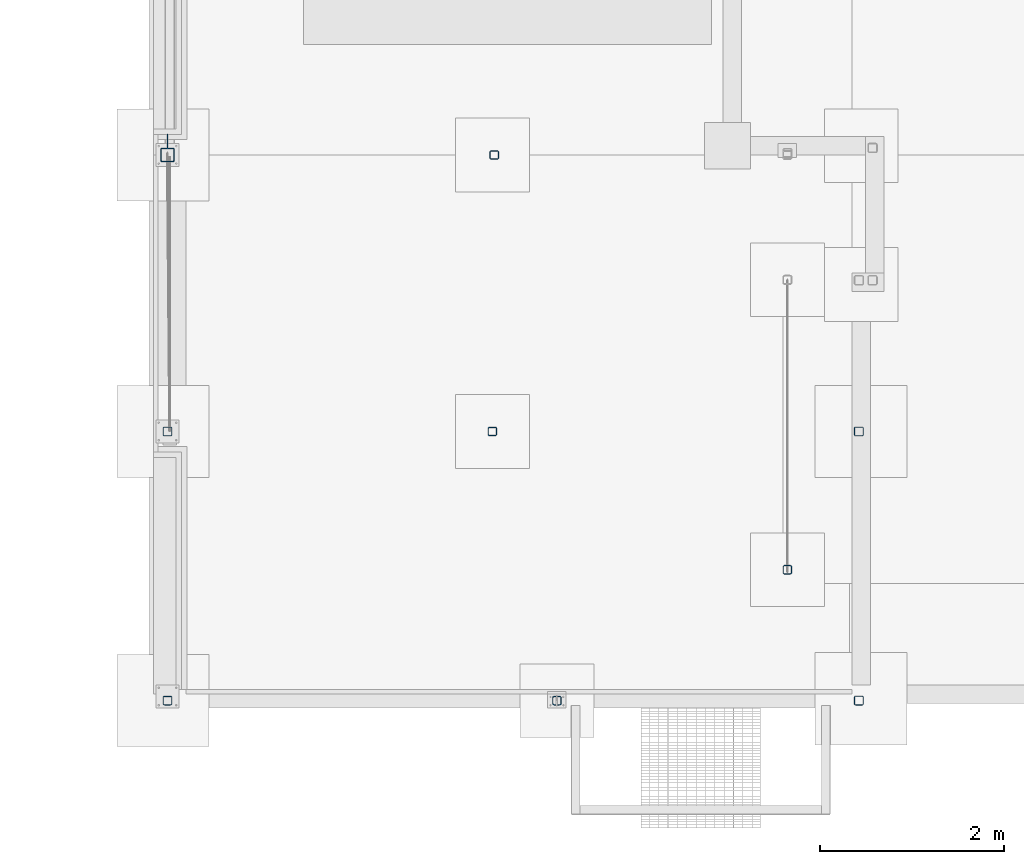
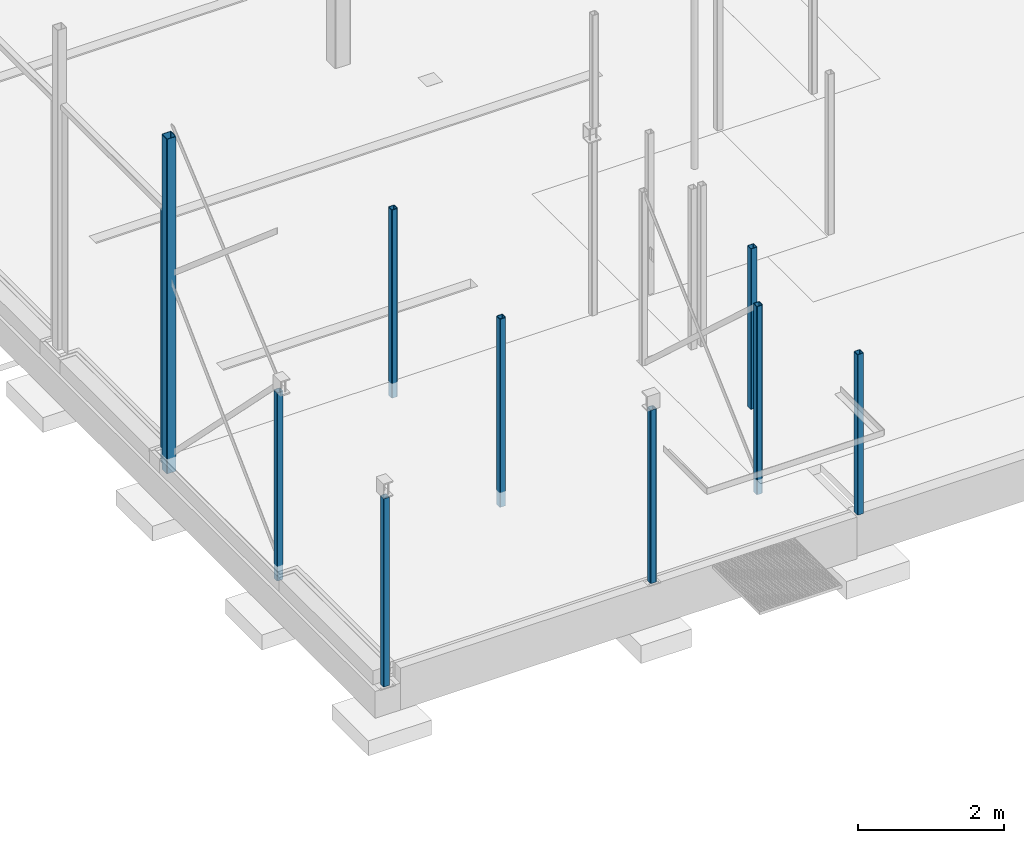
# One storey, part 1 of 18: 9 columns.
"""IFC2X3 building model written with IfcOpenShell, lengths in millimetres."""

import ifcopenshell
import ifcopenshell.guid

model = None  # the IFC model being written
_history = None  # IfcOwnerHistory: only IFC2X3 demands one
_inside = {}  # id of a spatial element -> (the spatial element, [elements in it])
_under = {}  # id of a project, library or spatial element -> (it, [spatial elements below it])
_declared = {}  # id of a project -> (the project, [libraries it declares])
_typed = {}  # id of a type object -> (the type object, [elements of that type])
_made_of = {}  # id of a material, layer set ... -> (it, [elements and type objects made of it])


def new_model(schema):
    """Start an empty IFC model of exactly this schema.

    Asked for "IFC4X3", IfcOpenShell would pick the latest addendum, in which some entities
    have other attributes; the version numbers below select the first issue.
    IFC2X3 requires an IfcOwnerHistory on every rooted entity: one is made here for all.
    """
    global model, _history
    if schema == "IFC4X3":
        model = ifcopenshell.file(schema_version=(4, 3, 0, 0))
    else:
        model = ifcopenshell.file(schema=schema)
    _inside.clear()
    _under.clear()
    _declared.clear()
    _typed.clear()
    _made_of.clear()
    _history = None
    if model.schema == "IFC2X3":
        org = make("IfcOrganization", Name="unknown")
        user = make(
            "IfcPersonAndOrganization",
            ThePerson=make("IfcPerson", FamilyName="unknown"),
            TheOrganization=org,
        )
        app = make(
            "IfcApplication",
            ApplicationDeveloper=org,
            Version="unknown",
            ApplicationFullName="unknown",
            ApplicationIdentifier="unknown",
        )
        _history = make(
            "IfcOwnerHistory",
            OwningUser=user,
            OwningApplication=app,
            ChangeAction="ADDED",
            CreationDate=0,
        )
    return model


def make(cls, **values):
    """One entity of the class cls with the attributes given. An attribute that is None is left unset."""
    return model.create_entity(
        cls, **{name: value for name, value in values.items() if value is not None}
    )


def entity(cls, *values):
    """Any entity or typed value of the class cls, its attributes in the order of the schema. None: left unset."""
    e = model.create_entity(cls)
    for i, value in enumerate(values):
        if value is not None:
            e[i] = value
    return e


def rooted(cls, **values):
    """An entity with a GlobalId (a new one), such as an element, a storey or a relation."""
    return make(cls, GlobalId=ifcopenshell.guid.new(), OwnerHistory=_history, **values)


def si_unit(unit_type, name, prefix=None):
    """IfcSIUnit, for example si_unit("LENGTHUNIT", "METRE", prefix="MILLI")."""
    return make("IfcSIUnit", UnitType=unit_type, Prefix=prefix, Name=name)


def converted_unit(unit_type, name, factor, base, dimensions=None, offset=None):
    """IfcConversionBasedUnit, such as the inch: factor (a typed value) times the base unit."""
    return make(
        "IfcConversionBasedUnit"
        if offset is None
        else "IfcConversionBasedUnitWithOffset",
        ConversionOffset=offset,
        Dimensions=None
        if dimensions is None
        else entity("IfcDimensionalExponents", *dimensions),
        UnitType=unit_type,
        Name=name,
        ConversionFactor=make(
            "IfcMeasureWithUnit", ValueComponent=factor, UnitComponent=base
        ),
    )


def derived_unit(unit_type, elements):
    """IfcDerivedUnit: a product of units, each with its exponent."""
    return make(
        "IfcDerivedUnit",
        Elements=[
            make("IfcDerivedUnitElement", Unit=unit, Exponent=power)
            for unit, power in elements
        ],
        UnitType=unit_type,
    )


def assignment(units):
    """IfcUnitAssignment: the units of a project."""
    return None if units is None else make("IfcUnitAssignment", Units=units)


def point(xyz):
    """IfcCartesianPoint."""
    return None if xyz is None else make("IfcCartesianPoint", Coordinates=xyz)


def direction(xyz):
    """IfcDirection."""
    return None if xyz is None else make("IfcDirection", DirectionRatios=xyz)


def frame(location, z_axis=None, x_axis=None):
    """IfcAxis2Placement3D, a coordinate frame: its origin and axes. An axis left out is left unset."""
    return make(
        "IfcAxis2Placement3D",
        Location=point(location),
        Axis=direction(z_axis),
        RefDirection=direction(x_axis),
    )


def frame_2d(location, x_axis=None):
    """IfcAxis2Placement2D, a coordinate frame in the plane: its origin and x axis."""
    return make(
        "IfcAxis2Placement2D", Location=point(location), RefDirection=direction(x_axis)
    )


def origin():
    """The frame at (0, 0, 0) with its axes left unset."""
    return frame((0.0, 0.0, 0.0))


def origin_2d_with_axis():
    """The frame at (0, 0) in the plane with the x axis (1, 0) written out."""
    return frame_2d((0.0, 0.0), x_axis=(1.0, 0.0))


def place(relative_to, where):
    """IfcLocalPlacement: puts the frame where relative to a parent placement (None: the world)."""
    return make(
        "IfcLocalPlacement", PlacementRelTo=relative_to, RelativePlacement=where
    )


def context(
    kind, dimensions, precision=None, world=None, true_north=None, identifier=None
):
    """IfcGeometricRepresentationContext, for example the 3D "Model" context."""
    return make(
        "IfcGeometricRepresentationContext",
        ContextIdentifier=identifier,
        ContextType=kind,
        CoordinateSpaceDimension=dimensions,
        Precision=precision,
        WorldCoordinateSystem=world,
        TrueNorth=true_north,
    )


def subcontext(parent, identifier, kind, view, scale=None):
    """IfcGeometricRepresentationSubContext, for example "Body" below "Model"."""
    return make(
        "IfcGeometricRepresentationSubContext",
        ContextIdentifier=identifier,
        ContextType=kind,
        ParentContext=parent,
        TargetScale=scale,
        TargetView=view,
    )


def project(units=None, contexts=None):
    """IfcProject with its units and contexts."""
    return rooted(
        "IfcProject",
        Name="project",
        RepresentationContexts=contexts,
        UnitsInContext=assignment(units),
    )


def spatial(cls, under=None, at=None, **own):
    """A site, building, storey or space (cls), placed at a placement, below another one or the project."""
    s = rooted(cls, ObjectPlacement=at, **own)
    if under is not None:
        _under.setdefault(under.id(), (under, []))[1].append(s)
    return s


def polyline(points):
    """IfcPolyline through the points."""
    return make("IfcPolyline", Points=[point(p) for p in points])


def circle_curve(where, radius):
    """IfcCircle in the frame where."""
    return make("IfcCircle", Position=where, Radius=radius)


def parameter(value):
    """IfcParameterValue: where a trimmed curve begins or ends, as a parameter of its basis curve."""
    return model.create_entity("IfcParameterValue", value)


def trimmed(basis, trim1, trim2, sense, master):
    """IfcTrimmedCurve: the piece of a basis curve between two trims."""
    return make(
        "IfcTrimmedCurve",
        BasisCurve=basis,
        Trim1=trim1,
        Trim2=trim2,
        SenseAgreement=sense,
        MasterRepresentation=master,
    )


def segment(curve, same_sense, transition):
    """IfcCompositeCurveSegment."""
    return make(
        "IfcCompositeCurveSegment",
        Transition=transition,
        SameSense=same_sense,
        ParentCurve=curve,
    )


def composite_curve(segments, self_intersect=None):
    """IfcCompositeCurve: segments joined end to end."""
    return make("IfcCompositeCurve", Segments=segments, SelfIntersect=self_intersect)


def profile(cls, at=None, kind="AREA", **sizes):
    """A parametric profile (cls). Its sizes go by their IFC names, for example OverallWidth=200.0."""
    return make(cls, ProfileType=kind, Position=at, **sizes)


def rectangle(**sizes):
    """IfcRectangleProfileDef."""
    return profile("IfcRectangleProfileDef", **sizes)


def outline(outer, holes=None, kind="AREA"):
    """IfcArbitraryClosedProfileDef: a profile drawn as a closed curve; with holes, ...WithVoids."""
    if holes is None:
        return make("IfcArbitraryClosedProfileDef", ProfileType=kind, OuterCurve=outer)
    return make(
        "IfcArbitraryProfileDefWithVoids",
        ProfileType=kind,
        OuterCurve=outer,
        InnerCurves=holes,
    )


def extrude(swept, where, along, depth):
    """IfcExtrudedAreaSolid: the profile swept, set in the frame where, extruded along a direction by depth."""
    return make(
        "IfcExtrudedAreaSolid",
        SweptArea=swept,
        Position=where,
        ExtrudedDirection=direction(along),
        Depth=depth,
    )


def shape(context_of_items, identifier, shape_type, items):
    """IfcShapeRepresentation: the items that make up one representation, for example the "Body"."""
    return make(
        "IfcShapeRepresentation",
        ContextOfItems=context_of_items,
        RepresentationIdentifier=identifier,
        RepresentationType=shape_type,
        Items=items,
    )


def source(mapping_origin, context_of_items, identifier, shape_type, items):
    """IfcRepresentationMap: a shape defined once, which mapped items show again and again."""
    return make(
        "IfcRepresentationMap",
        MappingOrigin=mapping_origin,
        MappedRepresentation=shape(context_of_items, identifier, shape_type, items),
    )


def transform(
    local_origin,
    x_axis=None,
    y_axis=None,
    z_axis=None,
    scale=None,
    scale2=None,
    scale3=None,
    uniform=True,
):
    """IfcCartesianTransformationOperator3D, or its non-uniform kind. x_axis, y_axis, z_axis: its Axis1, 2, 3."""
    if uniform:
        return make(
            "IfcCartesianTransformationOperator3D",
            Axis1=direction(x_axis),
            Axis2=direction(y_axis),
            LocalOrigin=point(local_origin),
            Scale=scale,
            Axis3=direction(z_axis),
        )
    return make(
        "IfcCartesianTransformationOperator3DnonUniform",
        Axis1=direction(x_axis),
        Axis2=direction(y_axis),
        LocalOrigin=point(local_origin),
        Scale=scale,
        Axis3=direction(z_axis),
        Scale2=scale2,
        Scale3=scale3,
    )


def mapped(mapping_source, mapping_target):
    """IfcMappedItem: shows the shape of a source again, moved by a transform."""
    return make(
        "IfcMappedItem", MappingSource=mapping_source, MappingTarget=mapping_target
    )


def material(Name=None, Category=None):
    """IfcMaterial."""
    return make("IfcMaterial", Name=Name, Category=Category)


def made_of(thing, what):
    """Note that an element or type object is made of a material, layer set ...; save() writes the relation."""
    if what is not None:
        _made_of.setdefault(what.id(), (what, []))[1].append(thing)
    return thing


def type_object(cls, material=None, **own):
    """A type object (cls), such as IfcWallType, which elements share."""
    return made_of(rooted(cls, **own), material)


def type_shapes(of_type, sources):
    """Give a type object the sources (RepresentationMaps) that its elements show as mapped items."""
    of_type.RepresentationMaps = sources


def element(
    cls,
    number,
    at=None,
    inside=None,
    cuts=None,
    type_object=None,
    material=None,
    context=None,
    identifier="Body",
    shape_type=None,
    held_by="IfcProductDefinitionShape",
    body=None,
    shapes=None,
    **own,
):
    """One element of the class cls, such as IfcWall. Its Tag is "e" and its number.

    at: its placement. inside: the storey or other place that contains it. cuts: it is an
    opening in that element (IfcRelVoidsElement). A single representation is given by context,
    identifier, shape_type and body (its items); several are given by shapes. held_by: the class
    of the entity that holds the representations. save() writes the other relations.
    """
    e = rooted(cls, Tag="e%d" % number, ObjectPlacement=at, **own)
    if body is not None:
        shapes = [shape(context, identifier, shape_type, body)]
    if shapes is not None:
        e.Representation = make(held_by, Representations=shapes)
    if inside is not None:
        _inside.setdefault(inside.id(), (inside, []))[1].append(e)
    if cuts is not None:
        rooted(
            "IfcRelVoidsElement", RelatingBuildingElement=cuts, RelatedOpeningElement=e
        )
    if type_object is not None:
        _typed.setdefault(type_object.id(), (type_object, []))[1].append(e)
    return made_of(e, material)


def aggregate(whole, parts):
    """IfcRelAggregates: a whole, such as a stair, and the parts it consists of."""
    return rooted("IfcRelAggregates", RelatingObject=whole, RelatedObjects=parts)


def save(model, path):
    """Write the relations noted so far, then the file.

    IfcRelAggregates (storeys below a building ...), IfcRelContainedInSpatialStructure (elements
    in a storey), IfcRelDefinesByType, IfcRelAssociatesMaterial and IfcRelDeclares: one each for
    every whole, place, type object, material and project.
    """
    for whole, parts in _under.values():
        aggregate(whole, parts)
    for where, things in _inside.values():
        rooted(
            "IfcRelContainedInSpatialStructure",
            RelatedElements=things,
            RelatingStructure=where,
        )
    for kind, things in _typed.values():
        rooted("IfcRelDefinesByType", RelatedObjects=things, RelatingType=kind)
    for what, things in _made_of.values():
        rooted("IfcRelAssociatesMaterial", RelatedObjects=things, RelatingMaterial=what)
    for by, libraries in _declared.values():
        rooted("IfcRelDeclares", RelatingContext=by, RelatedDefinitions=libraries)
    model.write(path)


model = new_model("IFC2X3")

# Units and contexts
model_context = context("Model", 3, precision=0.01, world=origin(), true_north=direction((6.12303176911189e-17, 1.0)))
body_context = subcontext(model_context, "Body", "Model", "MODEL_VIEW")
ifc_project = project(units=[si_unit("LENGTHUNIT", "METRE", prefix="MILLI"), si_unit("AREAUNIT", "SQUARE_METRE"), si_unit("VOLUMEUNIT", "CUBIC_METRE"), converted_unit("PLANEANGLEUNIT", "DEGREE", entity("IfcRatioMeasure", 0.0174532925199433), si_unit("PLANEANGLEUNIT", "RADIAN"), dimensions=[0, 0, 0, 0, 0, 0, 0]), si_unit("MASSUNIT", "GRAM", prefix="KILO"), derived_unit("MASSDENSITYUNIT", [(si_unit("MASSUNIT", "GRAM", prefix="KILO"), 1), (si_unit("LENGTHUNIT", "METRE"), -3)]), si_unit("TIMEUNIT", "SECOND"), si_unit("FREQUENCYUNIT", "HERTZ"), si_unit("THERMODYNAMICTEMPERATUREUNIT", "DEGREE_CELSIUS"), derived_unit("THERMALTRANSMITTANCEUNIT", [(si_unit("MASSUNIT", "GRAM", prefix="KILO"), 1), (si_unit("THERMODYNAMICTEMPERATUREUNIT", "KELVIN"), -1), (si_unit("TIMEUNIT", "SECOND"), -3)]), derived_unit("VOLUMETRICFLOWRATEUNIT", [(si_unit("LENGTHUNIT", "METRE"), 3), (si_unit("TIMEUNIT", "SECOND"), -1)]), si_unit("ELECTRICCURRENTUNIT", "AMPERE"), si_unit("ELECTRICVOLTAGEUNIT", "VOLT"), si_unit("POWERUNIT", "WATT"), si_unit("FORCEUNIT", "NEWTON", prefix="KILO"), si_unit("ILLUMINANCEUNIT", "LUX"), si_unit("LUMINOUSFLUXUNIT", "LUMEN"), si_unit("LUMINOUSINTENSITYUNIT", "CANDELA"), derived_unit("USERDEFINED", [(si_unit("MASSUNIT", "GRAM", prefix="KILO"), -1), (si_unit("LENGTHUNIT", "METRE"), -2), (si_unit("TIMEUNIT", "SECOND"), 3), (si_unit("LUMINOUSFLUXUNIT", "LUMEN"), 1)]), derived_unit("LINEARVELOCITYUNIT", [(si_unit("LENGTHUNIT", "METRE"), 1), (si_unit("TIMEUNIT", "SECOND"), -1)]), si_unit("PRESSUREUNIT", "PASCAL"), derived_unit("USERDEFINED", [(si_unit("LENGTHUNIT", "METRE"), -2), (si_unit("MASSUNIT", "GRAM", prefix="KILO"), 1), (si_unit("TIMEUNIT", "SECOND"), -2)])], contexts=[model_context])

# Site, building, storey
site_placement = place(None, frame((0.0, 0.0, 101000.0)))
site = spatial("IfcSite", under=ifc_project, at=site_placement, Name="Default", CompositionType="ELEMENT")
building_placement = place(site_placement, origin())
building = spatial("IfcBuilding", under=site, at=building_placement, CompositionType="ELEMENT")
storey_placement = place(building_placement, origin())
storey = spatial("IfcBuildingStorey", under=building, at=storey_placement, Name="01", CompositionType="ELEMENT", Elevation=8.9295595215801e-10)

# Columns
ifc_material = material(Name="S355")
column_type_1 = type_object("IfcColumnType", Name="HUP 100x100x6.3", PredefinedType="COLUMN", material=ifc_material)
shared_shape_1 = source(origin(), body_context, "Body", "SweptSolid", [
    extrude(outline(composite_curve([segment(polyline([(-37.4000000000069, -50.0), (37.3999999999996, -50.0)]), True, "CONTINUOUS"), segment(trimmed(circle_curve(frame_2d((37.3999999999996, -37.3999999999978), x_axis=(-1.0, 0.0)), 12.6000000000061), [parameter(90.0000000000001)], [parameter(180.0)], True, "PARAMETER"), True, "CONTINUOUS"), segment(polyline([(50.0, -37.4000000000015), (50.0, 37.3999999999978)]), True, "CONTINUOUS"), segment(trimmed(circle_curve(frame_2d((37.4000000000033, 37.3999999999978), x_axis=(-1.0, 0.0)), 12.6000000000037), [parameter(180.0)], [parameter(270.0)], True, "PARAMETER"), True, "CONTINUOUS"), segment(polyline([(37.4000000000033, 50.0), (-37.4000000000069, 50.0)]), True, "CONTINUOUS"), segment(trimmed(circle_curve(frame_2d((-37.4000000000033, 37.4000000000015), x_axis=(-1.0, 0.0)), 12.6000000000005), [parameter(270.0)], [parameter(360.0)], True, "PARAMETER"), True, "CONTINUOUS"), segment(polyline([(-50.0, 37.3999999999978), (-50.0, -37.4000000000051)]), True, "CONTINUOUS"), segment(trimmed(circle_curve(frame_2d((-37.4000000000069, -37.4000000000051), x_axis=(-1.0, 0.0)), 12.5999999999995), [parameter(360.0)], [parameter(89.9999999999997)], True, "PARAMETER"), True, "CONTINUOUS")], self_intersect=False), holes=[composite_curve([segment(trimmed(circle_curve(frame_2d((-37.4000000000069, -37.4000000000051), x_axis=(-1.0, 0.0)), 6.2999999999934), [parameter(0.0)], [parameter(90.0)], True, "PARAMETER"), False, "CONTINUOUS"), segment(polyline([(-43.7000000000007, -37.4000000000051), (-43.7000000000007, 37.4000000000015)]), True, "CONTINUOUS"), segment(trimmed(circle_curve(frame_2d((-37.4000000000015, 37.4000000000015), x_axis=(-1.0, 0.0)), 6.29999999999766), [parameter(270.0)], [parameter(360.0)], True, "PARAMETER"), False, "CONTINUOUS"), segment(polyline([(-37.4000000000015, 43.6999999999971), (37.3999999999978, 43.6999999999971)]), True, "CONTINUOUS"), segment(trimmed(circle_curve(frame_2d((37.3999999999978, 37.3999999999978), x_axis=(-1.0, 0.0)), 6.30000000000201), [parameter(180.0)], [parameter(270.0)], True, "PARAMETER"), False, "CONTINUOUS"), segment(polyline([(43.7000000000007, 37.3999999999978), (43.7000000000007, -37.4000000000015)]), True, "CONTINUOUS"), segment(trimmed(circle_curve(frame_2d((37.3999999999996, -37.3999999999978), x_axis=(-1.0, 0.0)), 6.30000000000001), [parameter(90.0000000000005)], [parameter(180.0)], True, "PARAMETER"), False, "CONTINUOUS"), segment(polyline([(37.3999999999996, -43.7000000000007), (-37.4000000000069, -43.7000000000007)]), True, "CONTINUOUS")], self_intersect=False)]), frame((11261.2644969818, 23497.9507529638, 0.0), z_axis=(0.0, 0.0, 1.0), x_axis=(-1.0, 0.0, 0.0)), (0.0, 0.0, 1.0), 2684.99999999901),
])
type_shapes(column_type_1, [shared_shape_1])
column_1_placement = place(storey_placement, origin())
element("IfcColumn", 1, at=column_1_placement, inside=storey, type_object=column_type_1, material=ifc_material, Name="Søyle HUP:HUP 100x100x6.3", ObjectType="HUP 100x100x6.3", context=body_context, shape_type="MappedRepresentation", body=[
    mapped(shared_shape_1, transform((0.0, 0.0, 0.0), scale=1.0)),
])
column_type_2 = type_object("IfcColumnType", Name="HUP 100x100x6.3", PredefinedType="COLUMN", material=ifc_material)
shared_shape_2 = source(origin(), body_context, "Body", "SweptSolid", [
    extrude(outline(composite_curve([segment(polyline([(-37.4000000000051, -50.0), (37.4000000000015, -50.0)]), True, "CONTINUOUS"), segment(trimmed(circle_curve(frame_2d((37.4000000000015, -37.3999999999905), x_axis=(-1.0, 0.0)), 12.6000000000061), [parameter(90.0000000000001)], [parameter(180.0)], True, "PARAMETER"), True, "CONTINUOUS"), segment(polyline([(50.0, -37.3999999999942), (50.0, 37.4000000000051)]), True, "CONTINUOUS"), segment(trimmed(circle_curve(frame_2d((37.4000000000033, 37.4000000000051), x_axis=(-1.0, 0.0)), 12.6000000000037), [parameter(180.0)], [parameter(270.0)], True, "PARAMETER"), True, "CONTINUOUS"), segment(polyline([(37.4000000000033, 50.0), (-37.4000000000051, 50.0)]), True, "CONTINUOUS"), segment(trimmed(circle_curve(frame_2d((-37.4000000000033, 37.4000000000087), x_axis=(-1.0, 0.0)), 12.6000000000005), [parameter(270.0)], [parameter(360.0)], True, "PARAMETER"), True, "CONTINUOUS"), segment(polyline([(-50.0, 37.4000000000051), (-50.0, -37.3999999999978)]), True, "CONTINUOUS"), segment(trimmed(circle_curve(frame_2d((-37.4000000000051, -37.3999999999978), x_axis=(-1.0, 0.0)), 12.5999999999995), [parameter(360.0)], [parameter(89.9999999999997)], True, "PARAMETER"), True, "CONTINUOUS")], self_intersect=False), holes=[composite_curve([segment(trimmed(circle_curve(frame_2d((-37.4000000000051, -37.3999999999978), x_axis=(-1.0, 0.0)), 6.2999999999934), [parameter(0.0)], [parameter(90.0)], True, "PARAMETER"), False, "CONTINUOUS"), segment(polyline([(-43.7000000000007, -37.3999999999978), (-43.7000000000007, 37.4000000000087)]), True, "CONTINUOUS"), segment(trimmed(circle_curve(frame_2d((-37.4000000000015, 37.4000000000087), x_axis=(-1.0, 0.0)), 6.29999999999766), [parameter(270.0)], [parameter(360.0)], True, "PARAMETER"), False, "CONTINUOUS"), segment(polyline([(-37.4000000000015, 43.7000000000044), (37.3999999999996, 43.7000000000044)]), True, "CONTINUOUS"), segment(trimmed(circle_curve(frame_2d((37.3999999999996, 37.4000000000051), x_axis=(-1.0, 0.0)), 6.30000000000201), [parameter(180.0)], [parameter(270.0)], True, "PARAMETER"), False, "CONTINUOUS"), segment(polyline([(43.7000000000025, 37.4000000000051), (43.7000000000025, -37.3999999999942)]), True, "CONTINUOUS"), segment(trimmed(circle_curve(frame_2d((37.4000000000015, -37.3999999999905), x_axis=(-1.0, 0.0)), 6.30000000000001), [parameter(90.0000000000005)], [parameter(180.0)], True, "PARAMETER"), False, "CONTINUOUS"), segment(polyline([(37.4000000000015, -43.6999999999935), (-37.4000000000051, -43.6999999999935)]), True, "CONTINUOUS")], self_intersect=False)]), frame((11261.2644969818, 26417.9507529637, 0.0), z_axis=(0.0, 0.0, 1.0), x_axis=(-1.0, 0.0, 0.0)), (0.0, 0.0, 1.0), 2684.99999999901),
])
type_shapes(column_type_2, [shared_shape_2])
column_2_placement = place(storey_placement, origin())
element("IfcColumn", 2, at=column_2_placement, inside=storey, type_object=column_type_2, material=ifc_material, Name="Søyle HUP:HUP 100x100x6.3", ObjectType="HUP 100x100x6.3", context=body_context, shape_type="MappedRepresentation", body=[
    mapped(shared_shape_2, transform((0.0, 0.0, 0.0), scale=1.0)),
])
column_type_3 = type_object("IfcColumnType", Name="HUP 100x100x10", PredefinedType="COLUMN", material=ifc_material)
shared_shape_3 = source(origin(), body_context, "Body", "SweptSolid", [
    extrude(outline(composite_curve([segment(polyline([(-30.0, -50.0), (30.0, -50.0)]), True, "CONTINUOUS"), segment(trimmed(circle_curve(frame_2d((30.0, -30.0), x_axis=(-1.0, 0.0)), 20.0000000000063), [parameter(90.0000000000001)], [parameter(180.0)], True, "PARAMETER"), True, "CONTINUOUS"), segment(polyline([(50.0, -30.0), (50.0, 30.0)]), True, "CONTINUOUS"), segment(trimmed(circle_curve(frame_2d((30.0, 30.0), x_axis=(-1.0, 0.0)), 20.0000000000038), [parameter(180.0)], [parameter(270.0)], True, "PARAMETER"), True, "CONTINUOUS"), segment(polyline([(30.0, 50.0), (-30.0, 50.0)]), True, "CONTINUOUS"), segment(trimmed(circle_curve(frame_2d((-30.0, 30.0), x_axis=(-1.0, 0.0)), 20.0000000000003), [parameter(270.0)], [parameter(360.0)], True, "PARAMETER"), True, "CONTINUOUS"), segment(polyline([(-50.0, 30.0), (-50.0, -30.0)]), True, "CONTINUOUS"), segment(trimmed(circle_curve(frame_2d((-30.0, -30.0), x_axis=(-1.0, 0.0)), 19.9999999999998), [parameter(360.0)], [parameter(89.9999999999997)], True, "PARAMETER"), True, "CONTINUOUS")], self_intersect=False), holes=[composite_curve([segment(trimmed(circle_curve(frame_2d((-30.0, -30.0), x_axis=(-1.0, 0.0)), 9.99999999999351), [parameter(0.0)], [parameter(90.0)], True, "PARAMETER"), False, "CONTINUOUS"), segment(polyline([(-40.0, -30.0), (-40.0, 30.0)]), True, "CONTINUOUS"), segment(trimmed(circle_curve(frame_2d((-30.0, 30.0), x_axis=(-1.0, 0.0)), 9.99999999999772), [parameter(270.0)], [parameter(0.0)], True, "PARAMETER"), False, "CONTINUOUS"), segment(polyline([(-30.0, 40.0), (30.0, 40.0)]), True, "CONTINUOUS"), segment(trimmed(circle_curve(frame_2d((30.0, 30.0), x_axis=(-1.0, 0.0)), 10.000000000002), [parameter(180.0)], [parameter(270.0)], True, "PARAMETER"), False, "CONTINUOUS"), segment(polyline([(40.0, 30.0), (40.0, -30.0)]), True, "CONTINUOUS"), segment(trimmed(circle_curve(frame_2d((30.0, -30.0), x_axis=(-1.0, 0.0)), 10.0), [parameter(90.0000000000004)], [parameter(180.0)], True, "PARAMETER"), False, "CONTINUOUS"), segment(polyline([(30.0, -40.0), (-30.0, -40.0)]), True, "CONTINUOUS")], self_intersect=False)]), frame((10486.2644969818, 24917.9507529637, -250.0), z_axis=(0.0, 0.0, 1.0), x_axis=(-1.0, 0.0, 0.0)), (0.0, 0.0, 1.0), 3149.99999999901),
])
type_shapes(column_type_3, [shared_shape_3])
column_3_placement = place(storey_placement, origin())
element("IfcColumn", 3, at=column_3_placement, inside=storey, type_object=column_type_3, material=ifc_material, Name="Søyle HUP:HUP 100x100x10", ObjectType="HUP 100x100x10", context=body_context, shape_type="MappedRepresentation", body=[
    mapped(shared_shape_3, transform((0.0, 0.0, 0.0), scale=1.0)),
])
column_type_4 = type_object("IfcColumnType", Name="HUP 100x100x10", PredefinedType="COLUMN", material=ifc_material)
shared_shape_4 = source(origin(), body_context, "Body", "SweptSolid", [
    extrude(outline(composite_curve([segment(polyline([(-30.0, -50.0), (30.0, -50.0)]), True, "CONTINUOUS"), segment(trimmed(circle_curve(frame_2d((30.0, -30.0), x_axis=(-1.0, 0.0)), 20.0000000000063), [parameter(90.0000000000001)], [parameter(180.0)], True, "PARAMETER"), True, "CONTINUOUS"), segment(polyline([(50.0, -30.0), (50.0, 30.0)]), True, "CONTINUOUS"), segment(trimmed(circle_curve(frame_2d((30.0, 30.0), x_axis=(-1.0, 0.0)), 20.0000000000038), [parameter(180.0)], [parameter(270.0)], True, "PARAMETER"), True, "CONTINUOUS"), segment(polyline([(30.0, 50.0), (-30.0, 50.0)]), True, "CONTINUOUS"), segment(trimmed(circle_curve(frame_2d((-30.0, 30.0), x_axis=(-1.0, 0.0)), 20.0000000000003), [parameter(270.0)], [parameter(360.0)], True, "PARAMETER"), True, "CONTINUOUS"), segment(polyline([(-50.0, 30.0), (-50.0, -30.0)]), True, "CONTINUOUS"), segment(trimmed(circle_curve(frame_2d((-30.0, -30.0), x_axis=(-1.0, 0.0)), 19.9999999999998), [parameter(360.0)], [parameter(89.9999999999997)], True, "PARAMETER"), True, "CONTINUOUS")], self_intersect=False), holes=[composite_curve([segment(trimmed(circle_curve(frame_2d((-30.0, -30.0), x_axis=(-1.0, 0.0)), 9.99999999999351), [parameter(0.0)], [parameter(90.0)], True, "PARAMETER"), False, "CONTINUOUS"), segment(polyline([(-40.0, -30.0), (-40.0, 30.0)]), True, "CONTINUOUS"), segment(trimmed(circle_curve(frame_2d((-30.0, 30.0), x_axis=(-1.0, 0.0)), 9.99999999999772), [parameter(270.0)], [parameter(0.0)], True, "PARAMETER"), False, "CONTINUOUS"), segment(polyline([(-30.0, 40.0), (30.0, 40.0)]), True, "CONTINUOUS"), segment(trimmed(circle_curve(frame_2d((30.0, 30.0), x_axis=(-1.0, 0.0)), 10.000000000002), [parameter(180.0)], [parameter(270.0)], True, "PARAMETER"), False, "CONTINUOUS"), segment(polyline([(40.0, 30.0), (40.0, -30.0)]), True, "CONTINUOUS"), segment(trimmed(circle_curve(frame_2d((30.0, -30.0), x_axis=(-1.0, 0.0)), 10.0), [parameter(90.0000000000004)], [parameter(180.0)], True, "PARAMETER"), False, "CONTINUOUS"), segment(polyline([(30.0, -40.0), (-30.0, -40.0)]), True, "CONTINUOUS")], self_intersect=False)]), frame((0.0, 0.0, 0.0), z_axis=(0.0, 0.0, 1.0), x_axis=(-1.0, 0.0, 0.0)), (0.0, 0.0, 1.0), 2899.99999999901),
])
type_shapes(column_type_4, [shared_shape_4])
column_4_placement = place(storey_placement, frame((7986.26449698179, 23497.9507529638, 0.0)))
element("IfcColumn", 4, at=column_4_placement, inside=storey, type_object=column_type_4, material=ifc_material, Name="Søyle HUP:HUP 100x100x10", ObjectType="HUP 100x100x10", context=body_context, shape_type="MappedRepresentation", body=[
    mapped(shared_shape_4, transform((0.0, 0.0, 0.0), scale=1.0)),
])
column_type_5 = type_object("IfcColumnType", Name="HUP 100x100x8", PredefinedType="COLUMN", material=ifc_material)
shared_shape_5 = source(origin(), body_context, "Body", "SweptSolid", [
    extrude(outline(composite_curve([segment(polyline([(-34.0, -50.0), (34.0, -50.0)]), True, "CONTINUOUS"), segment(trimmed(circle_curve(frame_2d((34.0, -34.0), x_axis=(-1.0, 0.0)), 15.9999999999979), [parameter(90.0000000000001)], [parameter(180.0)], True, "PARAMETER"), True, "CONTINUOUS"), segment(polyline([(50.0, -34.0), (50.0, 34.0)]), True, "CONTINUOUS"), segment(trimmed(circle_curve(frame_2d((34.0, 34.0), x_axis=(-1.0, 0.0)), 16.0000000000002), [parameter(180.0)], [parameter(270.0)], True, "PARAMETER"), True, "CONTINUOUS"), segment(polyline([(34.0, 50.0), (-34.0, 50.0)]), True, "CONTINUOUS"), segment(trimmed(circle_curve(frame_2d((-34.0, 34.0), x_axis=(-1.0, 0.0)), 16.0000000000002), [parameter(270.0)], [parameter(360.0)], True, "PARAMETER"), True, "CONTINUOUS"), segment(polyline([(-50.0, 34.0), (-50.0, -34.0)]), True, "CONTINUOUS"), segment(trimmed(circle_curve(frame_2d((-34.0, -34.0), x_axis=(-1.0, 0.0)), 15.9999999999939), [parameter(360.0)], [parameter(89.9999999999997)], True, "PARAMETER"), True, "CONTINUOUS")], self_intersect=False), holes=[composite_curve([segment(trimmed(circle_curve(frame_2d((-34.0, -34.0), x_axis=(-1.0, 0.0)), 7.99999999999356), [parameter(0.0)], [parameter(90.0)], True, "PARAMETER"), False, "CONTINUOUS"), segment(polyline([(-42.0, -34.0), (-42.0, 34.0)]), True, "CONTINUOUS"), segment(trimmed(circle_curve(frame_2d((-34.0, 34.0), x_axis=(-1.0, 0.0)), 7.99999999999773), [parameter(270.0)], [parameter(5.08888749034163e-14)], True, "PARAMETER"), False, "CONTINUOUS"), segment(polyline([(-34.0, 42.0), (34.0, 42.0)]), True, "CONTINUOUS"), segment(trimmed(circle_curve(frame_2d((34.0, 34.0), x_axis=(-1.0, 0.0)), 8.00000000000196), [parameter(180.0)], [parameter(270.0)], True, "PARAMETER"), False, "CONTINUOUS"), segment(polyline([(42.0, 34.0), (42.0, -34.0)]), True, "CONTINUOUS"), segment(trimmed(circle_curve(frame_2d((34.0, -34.0), x_axis=(-1.0, 0.0)), 8.00000000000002), [parameter(90.0000000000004)], [parameter(180.0)], True, "PARAMETER"), False, "CONTINUOUS"), segment(polyline([(34.0, -42.0), (-34.0, -42.0)]), True, "CONTINUOUS")], self_intersect=False)]), frame((3761.2644969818, 26417.9507529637, -250.0), z_axis=(0.0, 0.0, 1.0), x_axis=(0.0, -1.0, 0.0)), (0.0, 0.0, 1.0), 3149.99999999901),
])
type_shapes(column_type_5, [shared_shape_5])
column_5_placement = place(storey_placement, origin())
element("IfcColumn", 5, at=column_5_placement, inside=storey, type_object=column_type_5, material=ifc_material, Name="Søyle HUP:HUP 100x100x8", ObjectType="HUP 100x100x8", context=body_context, shape_type="MappedRepresentation", body=[
    mapped(shared_shape_5, transform((0.0, 0.0, 0.0), scale=1.0)),
])
column_type_6 = type_object("IfcColumnType", Name="HUP 100x100x8", PredefinedType="COLUMN", material=ifc_material)
shared_shape_6 = source(origin(), body_context, "Body", "SweptSolid", [
    extrude(outline(composite_curve([segment(polyline([(-34.0, -50.0), (34.0, -50.0)]), True, "CONTINUOUS"), segment(trimmed(circle_curve(frame_2d((34.0, -34.0), x_axis=(-1.0, 0.0)), 15.9999999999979), [parameter(90.0000000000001)], [parameter(180.0)], True, "PARAMETER"), True, "CONTINUOUS"), segment(polyline([(50.0, -34.0), (50.0, 34.0)]), True, "CONTINUOUS"), segment(trimmed(circle_curve(frame_2d((34.0, 34.0), x_axis=(-1.0, 0.0)), 16.0000000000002), [parameter(180.0)], [parameter(270.0)], True, "PARAMETER"), True, "CONTINUOUS"), segment(polyline([(34.0, 50.0), (-34.0, 50.0)]), True, "CONTINUOUS"), segment(trimmed(circle_curve(frame_2d((-34.0, 34.0), x_axis=(-1.0, 0.0)), 16.0000000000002), [parameter(270.0)], [parameter(360.0)], True, "PARAMETER"), True, "CONTINUOUS"), segment(polyline([(-50.0, 34.0), (-50.0, -34.0)]), True, "CONTINUOUS"), segment(trimmed(circle_curve(frame_2d((-34.0, -34.0), x_axis=(-1.0, 0.0)), 15.9999999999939), [parameter(360.0)], [parameter(89.9999999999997)], True, "PARAMETER"), True, "CONTINUOUS")], self_intersect=False), holes=[composite_curve([segment(trimmed(circle_curve(frame_2d((-34.0, -34.0), x_axis=(-1.0, 0.0)), 7.99999999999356), [parameter(0.0)], [parameter(90.0)], True, "PARAMETER"), False, "CONTINUOUS"), segment(polyline([(-42.0, -34.0), (-42.0, 34.0)]), True, "CONTINUOUS"), segment(trimmed(circle_curve(frame_2d((-34.0, 34.0), x_axis=(-1.0, 0.0)), 7.99999999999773), [parameter(270.0)], [parameter(5.08888749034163e-14)], True, "PARAMETER"), False, "CONTINUOUS"), segment(polyline([(-34.0, 42.0), (34.0, 42.0)]), True, "CONTINUOUS"), segment(trimmed(circle_curve(frame_2d((34.0, 34.0), x_axis=(-1.0, 0.0)), 8.00000000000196), [parameter(180.0)], [parameter(270.0)], True, "PARAMETER"), False, "CONTINUOUS"), segment(polyline([(42.0, 34.0), (42.0, -34.0)]), True, "CONTINUOUS"), segment(trimmed(circle_curve(frame_2d((34.0, -34.0), x_axis=(-1.0, 0.0)), 8.00000000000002), [parameter(90.0000000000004)], [parameter(180.0)], True, "PARAMETER"), False, "CONTINUOUS"), segment(polyline([(34.0, -42.0), (-34.0, -42.0)]), True, "CONTINUOUS")], self_intersect=False)]), frame((3761.26449698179, 23497.9507529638, -250.0), z_axis=(0.0, 0.0, 1.0), x_axis=(0.0, 1.0, 0.0)), (0.0, 0.0, 1.0), 3149.99999999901),
])
type_shapes(column_type_6, [shared_shape_6])
column_6_placement = place(storey_placement, origin())
element("IfcColumn", 6, at=column_6_placement, inside=storey, type_object=column_type_6, material=ifc_material, Name="Søyle HUP:HUP 100x100x8", ObjectType="HUP 100x100x8", context=body_context, shape_type="MappedRepresentation", body=[
    mapped(shared_shape_6, transform((0.0, 0.0, 0.0), scale=1.0)),
])
column_type_7 = type_object("IfcColumnType", Name="HUP 100x100x10", PredefinedType="COLUMN", material=ifc_material)
shared_shape_7 = source(origin(), body_context, "Body", "SweptSolid", [
    extrude(outline(composite_curve([segment(polyline([(-30.0, -50.0), (30.0, -50.0)]), True, "CONTINUOUS"), segment(trimmed(circle_curve(frame_2d((30.0, -30.0), x_axis=(-1.0, 0.0)), 20.0000000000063), [parameter(90.0000000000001)], [parameter(180.0)], True, "PARAMETER"), True, "CONTINUOUS"), segment(polyline([(50.0, -30.0), (50.0, 30.0)]), True, "CONTINUOUS"), segment(trimmed(circle_curve(frame_2d((30.0, 30.0), x_axis=(-1.0, 0.0)), 20.0000000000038), [parameter(180.0)], [parameter(270.0)], True, "PARAMETER"), True, "CONTINUOUS"), segment(polyline([(30.0, 50.0), (-30.0, 50.0)]), True, "CONTINUOUS"), segment(trimmed(circle_curve(frame_2d((-30.0, 30.0), x_axis=(-1.0, 0.0)), 20.0000000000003), [parameter(270.0)], [parameter(360.0)], True, "PARAMETER"), True, "CONTINUOUS"), segment(polyline([(-50.0, 30.0), (-50.0, -30.0)]), True, "CONTINUOUS"), segment(trimmed(circle_curve(frame_2d((-30.0, -30.0), x_axis=(-1.0, 0.0)), 19.9999999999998), [parameter(360.0)], [parameter(89.9999999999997)], True, "PARAMETER"), True, "CONTINUOUS")], self_intersect=False), holes=[composite_curve([segment(trimmed(circle_curve(frame_2d((-30.0, -30.0), x_axis=(-1.0, 0.0)), 9.99999999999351), [parameter(0.0)], [parameter(90.0)], True, "PARAMETER"), False, "CONTINUOUS"), segment(polyline([(-40.0, -30.0), (-40.0, 30.0)]), True, "CONTINUOUS"), segment(trimmed(circle_curve(frame_2d((-30.0, 30.0), x_axis=(-1.0, 0.0)), 9.99999999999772), [parameter(270.0)], [parameter(0.0)], True, "PARAMETER"), False, "CONTINUOUS"), segment(polyline([(-30.0, 40.0), (30.0, 40.0)]), True, "CONTINUOUS"), segment(trimmed(circle_curve(frame_2d((30.0, 30.0), x_axis=(-1.0, 0.0)), 10.000000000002), [parameter(180.0)], [parameter(270.0)], True, "PARAMETER"), False, "CONTINUOUS"), segment(polyline([(40.0, 30.0), (40.0, -30.0)]), True, "CONTINUOUS"), segment(trimmed(circle_curve(frame_2d((30.0, -30.0), x_axis=(-1.0, 0.0)), 10.0), [parameter(90.0000000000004)], [parameter(180.0)], True, "PARAMETER"), False, "CONTINUOUS"), segment(polyline([(30.0, -40.0), (-30.0, -40.0)]), True, "CONTINUOUS")], self_intersect=False)]), frame((7286.2644969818, 26417.9507529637, -250.0), z_axis=(0.0, 0.0, 1.0), x_axis=(-1.0, 0.0, 0.0)), (0.0, 0.0, 1.0), 3149.99999999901),
])
type_shapes(column_type_7, [shared_shape_7])
column_7_placement = place(storey_placement, origin())
element("IfcColumn", 7, at=column_7_placement, inside=storey, type_object=column_type_7, material=ifc_material, Name="Søyle HUP:HUP 100x100x10", ObjectType="HUP 100x100x10", context=body_context, shape_type="MappedRepresentation", body=[
    mapped(shared_shape_7, transform((0.0, 0.0, 0.0), scale=1.0)),
])
column_type_8 = type_object("IfcColumnType", Name="HUP 150x150x6 (+1x150x10)", PredefinedType="COLUMN", material=ifc_material)
shared_shape_8 = source(origin(), body_context, "Body", "SweptSolid", [
    extrude(rectangle(XDim=150.0, YDim=6.00000000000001, at=origin_2d_with_axis()), frame((-141.282160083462, 0.0, -250.0)), (0.0, 0.0, 1.0), 4254.0),
    extrude(outline(composite_curve([segment(trimmed(circle_curve(frame_2d((59.0, -59.0), x_axis=(1.0, 0.0)), 15.9999999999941), [parameter(270.0)], [parameter(3.56222124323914e-13)], True, "PARAMETER"), True, "CONTINUOUS"), segment(polyline([(75.0, -59.0), (75.0, 59.0)]), True, "CONTINUOUS"), segment(trimmed(circle_curve(frame_2d((59.0, 59.0), x_axis=(1.0, 0.0)), 16.0000000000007), [parameter(3.56222124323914e-13)], [parameter(90.0000000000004)], True, "PARAMETER"), True, "CONTINUOUS"), segment(polyline([(59.0, 75.0), (-59.0, 75.0)]), True, "CONTINUOUS"), segment(trimmed(circle_curve(frame_2d((-59.0, 59.0), x_axis=(1.0, 0.0)), 16.0000000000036), [parameter(90.0000000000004)], [parameter(180.0)], True, "PARAMETER"), True, "CONTINUOUS"), segment(polyline([(-75.0, 59.0), (-75.0, -59.0)]), True, "CONTINUOUS"), segment(trimmed(circle_curve(frame_2d((-59.0, -59.0), x_axis=(1.0, 0.0)), 16.0000000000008), [parameter(180.0)], [parameter(270.0)], True, "PARAMETER"), True, "CONTINUOUS"), segment(polyline([(-59.0, -75.0), (59.0, -75.0)]), True, "CONTINUOUS")], self_intersect=False), holes=[composite_curve([segment(polyline([(55.5128640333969, -67.0), (-62.48713596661, -67.0)]), True, "CONTINUOUS"), segment(trimmed(circle_curve(frame_2d((-62.4871359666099, -62.4871359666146), x_axis=(1.0, 0.0)), 4.51286403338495), [parameter(180.0)], [parameter(270.0)], True, "PARAMETER"), False, "CONTINUOUS"), segment(polyline([(-67.0, -62.4871359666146), (-67.0, 62.4871359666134)]), True, "CONTINUOUS"), segment(trimmed(circle_curve(frame_2d((-62.4871359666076, 62.4871359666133), x_axis=(1.0, 0.0)), 4.51286403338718), [parameter(89.9999999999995)], [parameter(180.0)], True, "PARAMETER"), False, "CONTINUOUS"), segment(polyline([(-62.4871359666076, 67.0), (55.5128640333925, 67.0)]), True, "CONTINUOUS"), segment(trimmed(circle_curve(frame_2d((55.5128640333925, 55.512864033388), x_axis=(1.0, 0.0)), 11.4871359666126), [parameter(5.08888749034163e-14)], [parameter(90.0000000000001)], True, "PARAMETER"), False, "CONTINUOUS"), segment(polyline([(67.0, 55.512864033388), (67.0, -55.5128640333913)]), True, "CONTINUOUS"), segment(trimmed(circle_curve(frame_2d((55.5128640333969, -55.5128640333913), x_axis=(1.0, 0.0)), 11.4871359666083), [parameter(270.0)], [parameter(0.0)], True, "PARAMETER"), False, "CONTINUOUS")], self_intersect=False)]), frame((8.71783991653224, 0.0, -250.0)), (0.0, 0.0, 1.0), 5599.99999999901),
])
type_shapes(column_type_8, [shared_shape_8])
column_8_placement = place(storey_placement, frame((3761.2644969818, 29426.6685928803, 0.0), z_axis=(0.0, 0.0, 1.0), x_axis=(0.0, -1.0, 0.0)))
element("IfcColumn", 8, at=column_8_placement, inside=storey, type_object=column_type_8, material=ifc_material, Name="Søyle HUP_1ving:HUP 150x150x6 (+1x150x10)", ObjectType="HUP 150x150x6 (+1x150x10)", context=body_context, shape_type="MappedRepresentation", body=[
    mapped(shared_shape_8, transform((0.0, 0.0, 0.0), scale=1.0)),
])
column_type_9 = type_object("IfcColumnType", Name="HUP 100x100x10", PredefinedType="COLUMN", material=ifc_material)
shared_shape_9 = source(origin(), body_context, "Body", "SweptSolid", [
    extrude(outline(composite_curve([segment(polyline([(-30.0, -50.0), (30.0, -50.0)]), True, "CONTINUOUS"), segment(trimmed(circle_curve(frame_2d((30.0, -30.0), x_axis=(-1.0, 0.0)), 20.0000000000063), [parameter(90.0000000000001)], [parameter(180.0)], True, "PARAMETER"), True, "CONTINUOUS"), segment(polyline([(50.0, -30.0), (50.0, 30.0)]), True, "CONTINUOUS"), segment(trimmed(circle_curve(frame_2d((30.0, 30.0), x_axis=(-1.0, 0.0)), 20.0000000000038), [parameter(180.0)], [parameter(270.0)], True, "PARAMETER"), True, "CONTINUOUS"), segment(polyline([(30.0, 50.0), (-30.0, 50.0)]), True, "CONTINUOUS"), segment(trimmed(circle_curve(frame_2d((-30.0, 30.0), x_axis=(-1.0, 0.0)), 20.0000000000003), [parameter(270.0)], [parameter(360.0)], True, "PARAMETER"), True, "CONTINUOUS"), segment(polyline([(-50.0, 30.0), (-50.0, -30.0)]), True, "CONTINUOUS"), segment(trimmed(circle_curve(frame_2d((-30.0, -30.0), x_axis=(-1.0, 0.0)), 19.9999999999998), [parameter(360.0)], [parameter(89.9999999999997)], True, "PARAMETER"), True, "CONTINUOUS")], self_intersect=False), holes=[composite_curve([segment(trimmed(circle_curve(frame_2d((-30.0, -30.0), x_axis=(-1.0, 0.0)), 9.99999999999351), [parameter(0.0)], [parameter(90.0)], True, "PARAMETER"), False, "CONTINUOUS"), segment(polyline([(-40.0, -30.0), (-40.0, 30.0)]), True, "CONTINUOUS"), segment(trimmed(circle_curve(frame_2d((-30.0, 30.0), x_axis=(-1.0, 0.0)), 9.99999999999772), [parameter(270.0)], [parameter(0.0)], True, "PARAMETER"), False, "CONTINUOUS"), segment(polyline([(-30.0, 40.0), (30.0, 40.0)]), True, "CONTINUOUS"), segment(trimmed(circle_curve(frame_2d((30.0, 30.0), x_axis=(-1.0, 0.0)), 10.000000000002), [parameter(180.0)], [parameter(270.0)], True, "PARAMETER"), False, "CONTINUOUS"), segment(polyline([(40.0, 30.0), (40.0, -30.0)]), True, "CONTINUOUS"), segment(trimmed(circle_curve(frame_2d((30.0, -30.0), x_axis=(-1.0, 0.0)), 10.0), [parameter(90.0000000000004)], [parameter(180.0)], True, "PARAMETER"), False, "CONTINUOUS"), segment(polyline([(30.0, -40.0), (-30.0, -40.0)]), True, "CONTINUOUS")], self_intersect=False)]), frame((7306.26449698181, 29417.9507529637, -250.0), z_axis=(0.0, 0.0, 1.0), x_axis=(-1.0, 0.0, 0.0)), (0.0, 0.0, 1.0), 3149.99999999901),
])
type_shapes(column_type_9, [shared_shape_9])
column_9_placement = place(storey_placement, origin())
element("IfcColumn", 9, at=column_9_placement, inside=storey, type_object=column_type_9, material=ifc_material, Name="Søyle HUP:HUP 100x100x10", ObjectType="HUP 100x100x10", context=body_context, shape_type="MappedRepresentation", body=[
    mapped(shared_shape_9, transform((0.0, 0.0, 0.0), scale=1.0)),
])

save(model, "model.ifc")
